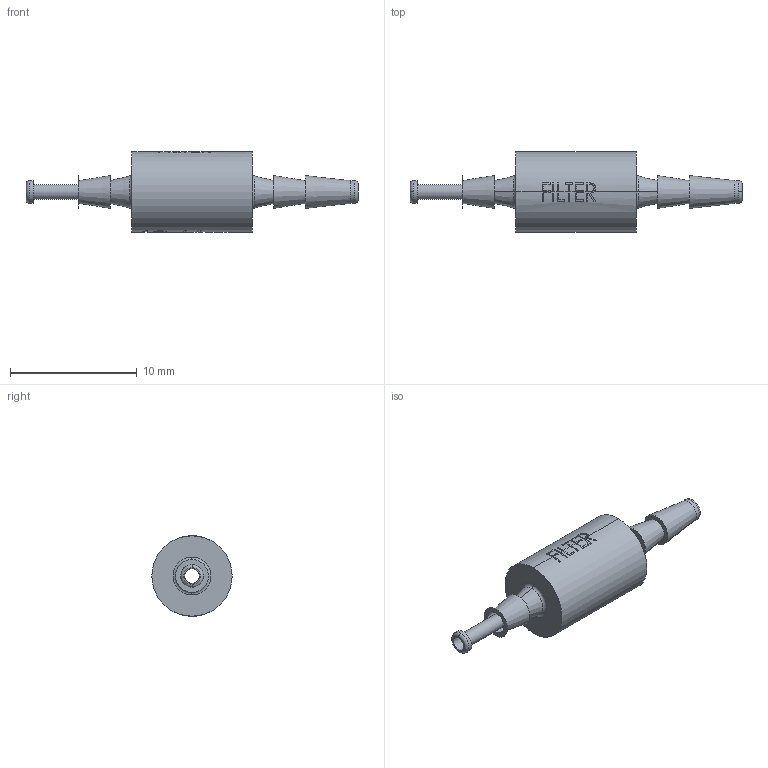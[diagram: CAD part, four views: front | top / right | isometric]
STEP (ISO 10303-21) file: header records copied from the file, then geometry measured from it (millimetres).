
FILE_DESCRIPTION(/* description */ ('SolidWorks IGES file using NURBS representation for surfaces '),/* implementation_level */ '2;1');
FILE_NAME(/* name */ 'K:\Normteile INVENTOR\Air-Logic\Filters\F-950-43-B80.IGS.ipt.stp',/* time_stamp */ '2020-05-27T10:39:42+02:00',/* author */ ('amarsh'),/* organization */ (''),/* preprocessor_version */ 'ST-DEVELOPER v18',/* originating_system */ 'Autodesk Inventor 2020',/* authorisation */ '');
FILE_SCHEMA (('AUTOMOTIVE_DESIGN { 1 0 10303 214 3 1 1 }'));
Length unit declared in the file: millimetre
Products named in the file (1): F-950-43-B80.IGS
Bounding box: 26.22 x 6.35 x 6.35 mm (x, y, z)
Volume: 335.3 mm3; surface area: 467.8 mm2
Topology: 1 solids, 1 shells, 168 faces, 480 edges, 322 vertices
Faces by surface type: plane 81, bspline 45, cylinder 26, torus 8, cone 8
Full cylindrical faces by diameter (mm): 1.17 x1, 1.8 x2
Entity records: 8722 total; most frequent: CARTESIAN_POINT 4417, ORIENTED_EDGE 960, DIRECTION 808, EDGE_CURVE 480, VERTEX_POINT 322, AXIS2_PLACEMENT_3D 290, LINE 228, VECTOR 228
